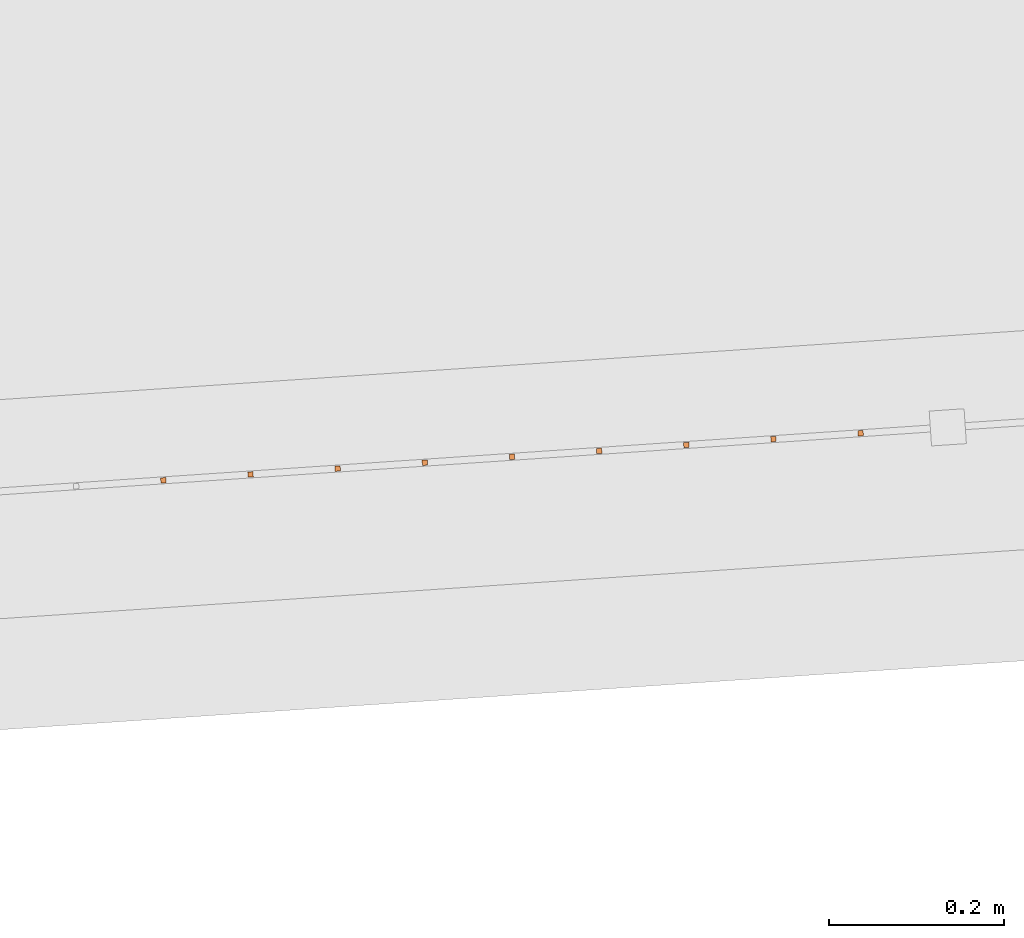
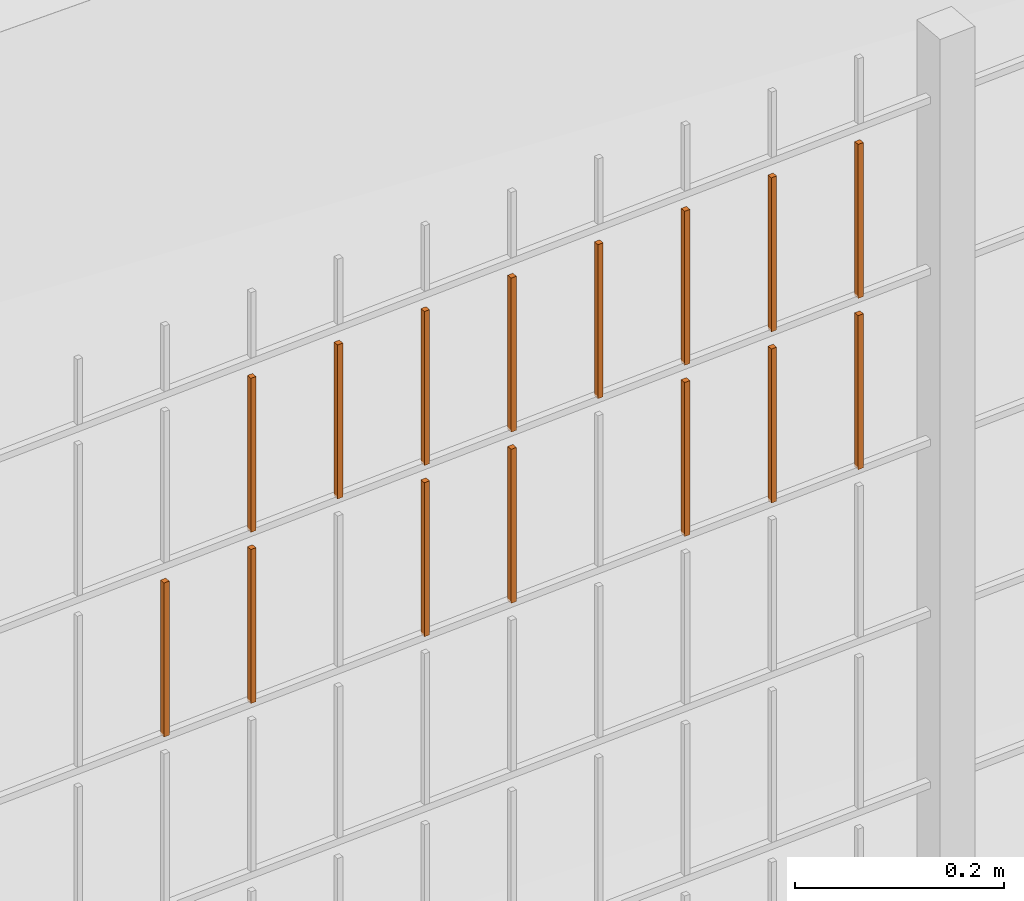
# One storey, part 351 of 1809: 15 proxies, 1 element without a shape of its own.
"""IFC2X3 building model written with IfcOpenShell, lengths in millimetres."""

from ifc_helpers import new_model, entity, si_unit, converted_unit, derived_unit, money_unit, direction, frame, origin_with_axes, place, context, subcontext, project, spatial, faceted_brep, source, transform, mapped, material, type_object, element, aggregate, save


model = new_model("IFC2X3")

# Units and contexts
model_context = context("Model", 3, precision=0.01, world=origin_with_axes(), true_north=direction((0.0, 1.0)))
body_context = subcontext(model_context, "Body", "Model", "MODEL_VIEW")
ifc_project = project(units=[si_unit("LENGTHUNIT", "METRE", prefix="MILLI"), si_unit("AREAUNIT", "SQUARE_METRE"), si_unit("VOLUMEUNIT", "CUBIC_METRE"), converted_unit("PLANEANGLEUNIT", "DEGREE", entity("IfcPlaneAngleMeasure", 0.0174532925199), si_unit("PLANEANGLEUNIT", "RADIAN"), dimensions=[0, 0, 0, 0, 0, 0, 0]), si_unit("SOLIDANGLEUNIT", "STERADIAN"), money_unit("EUR"), converted_unit("TIMEUNIT", "Year", entity("IfcTimeMeasure", 31556926.0), si_unit("TIMEUNIT", "SECOND"), dimensions=[0, 0, 1, 0, 0, 0, 0]), si_unit("MASSUNIT", "GRAM", prefix="KILO"), si_unit("THERMODYNAMICTEMPERATUREUNIT", "DEGREE_CELSIUS"), si_unit("LUMINOUSINTENSITYUNIT", "LUMEN"), si_unit("ENERGYUNIT", "JOULE", prefix="MEGA"), derived_unit("THERMALCONDUCTANCEUNIT", [(si_unit("POWERUNIT", "WATT"), 1), (si_unit("LENGTHUNIT", "METRE"), -1), (si_unit("THERMODYNAMICTEMPERATUREUNIT", "KELVIN"), -1)]), derived_unit("SPECIFICHEATCAPACITYUNIT", [(si_unit("ENERGYUNIT", "JOULE"), 1), (si_unit("MASSUNIT", "GRAM", prefix="KILO"), -1), (si_unit("THERMODYNAMICTEMPERATUREUNIT", "KELVIN"), -1)]), derived_unit("MASSDENSITYUNIT", [(si_unit("MASSUNIT", "GRAM", prefix="KILO"), 1), (si_unit("VOLUMEUNIT", "CUBIC_METRE"), -1)])], contexts=[model_context])

# Site, building, storey
site_placement = place(None, origin_with_axes())
site = spatial("IfcSite", under=ifc_project, at=site_placement, Name="Politse- ja Piirivalveameti ning Päästeameti ühishoone", CompositionType="ELEMENT")
building_placement = place(site_placement, origin_with_axes())
building = spatial("IfcBuilding", under=site, at=building_placement, Name="Politse- ja Piirivalveameti ning Päästeameti ühishoone", CompositionType="ELEMENT")
storey_placement = place(building_placement, origin_with_axes())
storey = spatial("IfcBuildingStorey", under=building, at=storey_placement, Name="Esimene korrus", CompositionType="ELEMENT", Elevation=0.0)

# Proxies
building_element_proxy_type_1 = type_object("IfcBuildingElementProxyType", Name="Railing Type", PredefinedType="NOTDEFINED")
proxy_1_placement = place(storey_placement, frame((89252.001212, -29183.4766571, 203.661247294), z_axis=(0.0, 0.0, 1.0), x_axis=(1.0, 0.0, 0.0)))
proxy_1 = element("IfcBuildingElementProxy", 1, at=proxy_1_placement, inside=storey, type_object=building_element_proxy_type_1, Name="PIIRDEAED")
ifc_material = material(Name="ET-03_Raud")
building_element_proxy_type_2 = type_object("IfcBuildingElementProxyType", Name="IfcBuildingElementProxy", PredefinedType="NOTDEFINED")
shared_shape_1 = source(origin_with_axes(), body_context, "Body", "Brep", [
    faceted_brep([(3.0, 3.0, -0.000752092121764), (-3.0, 3.0, -0.000752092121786), (-3.0, 3.0, 179.99926046), (3.0, 3.0, 179.99926046), (3.0, -3.0, 0.000752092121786), (-3.0, -3.0, 0.000752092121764), (-3.0, -3.0, 180.000764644), (3.0, -3.0, 180.000764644)], [[[0, 1, 2, 3]], [[0, 4, 5, 1]], [[1, 5, 6, 2]], [[3, 2, 6, 7]], [[4, 0, 3, 7]], [[5, 4, 7, 6]]]),
])
proxy_2_placement = place(proxy_1_placement, frame((-27863.1974887, -19179.8286001, 1820.23323817), z_axis=(0.0, 0.0, 1.0), x_axis=(1.0, 0.0, 0.0)))
proxy_2 = element("IfcBuildingElementProxy", 2, at=proxy_2_placement, type_object=building_element_proxy_type_2, material=ifc_material, Name="BALUSTER - 001", context=body_context, shape_type="MappedRepresentation", body=[
    mapped(shared_shape_1, transform((0.0, 0.0, 0.0), x_axis=(-0.0673926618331, 0.997726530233, 0.0), y_axis=(-0.997726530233, -0.0673926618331, 0.0), z_axis=(0.0, 0.0, 1.0))),
])
shared_shape_2 = source(origin_with_axes(), body_context, "Body", "Brep", [
    faceted_brep([(3.0, 3.0, -0.000752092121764), (-3.0, 3.0, -0.000752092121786), (-3.0, 3.0, 179.99926046), (3.0, 3.0, 179.99926046), (3.0, -3.0, 0.000752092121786), (-3.0, -3.0, 0.000752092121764), (-3.0, -3.0, 180.000764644), (3.0, -3.0, 180.000764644)], [[[0, 1, 2, 3]], [[0, 4, 5, 1]], [[1, 5, 6, 2]], [[3, 2, 6, 7]], [[4, 0, 3, 7]], [[5, 4, 7, 6]]]),
])
proxy_3_placement = place(proxy_1_placement, frame((-27863.1974887, -19179.8286001, 1620.23323817), z_axis=(0.0, 0.0, 1.0), x_axis=(1.0, 0.0, 0.0)))
proxy_3 = element("IfcBuildingElementProxy", 3, at=proxy_3_placement, type_object=building_element_proxy_type_2, material=ifc_material, Name="BALUSTER - 001", context=body_context, shape_type="MappedRepresentation", body=[
    mapped(shared_shape_2, transform((0.0, 0.0, 0.0), x_axis=(-0.0673926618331, 0.997726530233, 0.0), y_axis=(-0.997726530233, -0.0673926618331, 0.0), z_axis=(0.0, 0.0, 1.0))),
])
shared_shape_3 = source(origin_with_axes(), body_context, "Body", "Brep", [
    faceted_brep([(3.0, 3.0, -0.000752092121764), (-3.0, 3.0, -0.000752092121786), (-3.0, 3.0, 179.99926046), (3.0, 3.0, 179.99926046), (3.0, -3.0, 0.000752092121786), (-3.0, -3.0, 0.000752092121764), (-3.0, -3.0, 180.000764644), (3.0, -3.0, 180.000764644)], [[[0, 1, 2, 3]], [[0, 4, 5, 1]], [[1, 5, 6, 2]], [[3, 2, 6, 7]], [[4, 0, 3, 7]], [[5, 4, 7, 6]]]),
])
proxy_4_placement = place(proxy_1_placement, frame((-27763.4248357, -19173.0893339, 1820.25830791), z_axis=(0.0, 0.0, 1.0), x_axis=(1.0, 0.0, 0.0)))
proxy_4 = element("IfcBuildingElementProxy", 4, at=proxy_4_placement, type_object=building_element_proxy_type_2, material=ifc_material, Name="BALUSTER - 001", context=body_context, shape_type="MappedRepresentation", body=[
    mapped(shared_shape_3, transform((0.0, 0.0, 0.0), x_axis=(-0.0673926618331, 0.997726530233, 0.0), y_axis=(-0.997726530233, -0.0673926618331, 0.0), z_axis=(0.0, 0.0, 1.0))),
])
shared_shape_4 = source(origin_with_axes(), body_context, "Body", "Brep", [
    faceted_brep([(3.0, 3.0, -0.000752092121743), (-3.0, 3.0, -0.000752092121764), (-3.0, 3.0, 179.99926046), (3.0, 3.0, 179.99926046), (3.0, -3.0, 0.000752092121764), (-3.0, -3.0, 0.000752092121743), (-3.0, -3.0, 180.000764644), (3.0, -3.0, 180.000764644)], [[[0, 1, 2, 3]], [[0, 4, 5, 1]], [[1, 5, 6, 2]], [[3, 2, 6, 7]], [[4, 0, 3, 7]], [[5, 4, 7, 6]]]),
])
proxy_5_placement = place(proxy_1_placement, frame((-27962.9701417, -19186.5678662, 1820.20816844), z_axis=(0.0, 0.0, 1.0), x_axis=(1.0, 0.0, 0.0)))
proxy_5 = element("IfcBuildingElementProxy", 5, at=proxy_5_placement, type_object=building_element_proxy_type_2, material=ifc_material, Name="BALUSTER - 001", context=body_context, shape_type="MappedRepresentation", body=[
    mapped(shared_shape_4, transform((0.0, 0.0, 0.0), x_axis=(-0.0673926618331, 0.997726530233, 0.0), y_axis=(-0.997726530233, -0.0673926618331, 0.0), z_axis=(0.0, 0.0, 1.0))),
])
shared_shape_5 = source(origin_with_axes(), body_context, "Body", "Brep", [
    faceted_brep([(3.0, 3.0, -0.000752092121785), (-3.0, 3.0, -0.000752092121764), (-3.0, 3.0, 179.99926046), (3.0, 3.0, 179.99926046), (3.0, -3.0, 0.000752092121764), (-3.0, -3.0, 0.000752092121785), (-3.0, -3.0, 180.000764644), (3.0, -3.0, 180.000764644)], [[[0, 1, 2, 3]], [[0, 4, 5, 1]], [[1, 5, 6, 2]], [[3, 2, 6, 7]], [[4, 0, 3, 7]], [[5, 4, 7, 6]]]),
])
proxy_6_placement = place(proxy_1_placement, frame((-27464.1068766, -19152.8715353, 1820.33351712), z_axis=(0.0, 0.0, 1.0), x_axis=(1.0, 0.0, 0.0)))
proxy_6 = element("IfcBuildingElementProxy", 6, at=proxy_6_placement, type_object=building_element_proxy_type_2, material=ifc_material, Name="BALUSTER - 001", context=body_context, shape_type="MappedRepresentation", body=[
    mapped(shared_shape_5, transform((0.0, 0.0, 0.0), x_axis=(-0.0673926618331, 0.997726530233, 0.0), y_axis=(-0.997726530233, -0.0673926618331, 0.0), z_axis=(0.0, 0.0, 1.0))),
])
shared_shape_6 = source(origin_with_axes(), body_context, "Body", "Brep", [
    faceted_brep([(3.0, 3.0, -0.000752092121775), (-3.0, 3.0, -0.000752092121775), (-3.0, 3.0, 179.99926046), (3.0, 3.0, 179.99926046), (3.0, -3.0, 0.000752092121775), (-3.0, -3.0, 0.000752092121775), (-3.0, -3.0, 180.000764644), (3.0, -3.0, 180.000764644)], [[[0, 1, 2, 3]], [[0, 4, 5, 1]], [[1, 5, 6, 2]], [[3, 2, 6, 7]], [[4, 0, 3, 7]], [[5, 4, 7, 6]]]),
])
proxy_7_placement = place(proxy_1_placement, frame((-27563.8795296, -19159.6108015, 1820.30844739), z_axis=(0.0, 0.0, 1.0), x_axis=(1.0, 0.0, 0.0)))
proxy_7 = element("IfcBuildingElementProxy", 7, at=proxy_7_placement, type_object=building_element_proxy_type_2, material=ifc_material, Name="BALUSTER - 001", context=body_context, shape_type="MappedRepresentation", body=[
    mapped(shared_shape_6, transform((0.0, 0.0, 0.0), x_axis=(-0.0673926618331, 0.997726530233, 0.0), y_axis=(-0.997726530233, -0.0673926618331, 0.0), z_axis=(0.0, 0.0, 1.0))),
])
shared_shape_7 = source(origin_with_axes(), body_context, "Body", "Brep", [
    faceted_brep([(3.0, 3.0, -0.000752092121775), (-3.0, 3.0, -0.000752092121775), (-3.0, 3.0, 179.99926046), (3.0, 3.0, 179.99926046), (3.0, -3.0, 0.000752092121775), (-3.0, -3.0, 0.000752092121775), (-3.0, -3.0, 180.000764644), (3.0, -3.0, 180.000764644)], [[[0, 1, 2, 3]], [[0, 4, 5, 1]], [[1, 5, 6, 2]], [[3, 2, 6, 7]], [[4, 0, 3, 7]], [[5, 4, 7, 6]]]),
])
proxy_8_placement = place(proxy_1_placement, frame((-27563.8795296, -19159.6108015, 1620.30844739), z_axis=(0.0, 0.0, 1.0), x_axis=(1.0, 0.0, 0.0)))
proxy_8 = element("IfcBuildingElementProxy", 8, at=proxy_8_placement, type_object=building_element_proxy_type_2, material=ifc_material, Name="BALUSTER - 001", context=body_context, shape_type="MappedRepresentation", body=[
    mapped(shared_shape_7, transform((0.0, 0.0, 0.0), x_axis=(-0.0673926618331, 0.997726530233, 0.0), y_axis=(-0.997726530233, -0.0673926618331, 0.0), z_axis=(0.0, 0.0, 1.0))),
])
shared_shape_8 = source(origin_with_axes(), body_context, "Body", "Brep", [
    faceted_brep([(3.0, 3.0, -0.000752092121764), (-3.0, 3.0, -0.000752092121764), (-3.0, 3.0, 179.99926046), (3.0, 3.0, 179.99926046), (3.0, -3.0, 0.000752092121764), (-3.0, -3.0, 0.000752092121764), (-3.0, -3.0, 180.000764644), (3.0, -3.0, 180.000764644)], [[[0, 1, 2, 3]], [[0, 4, 5, 1]], [[1, 5, 6, 2]], [[3, 2, 6, 7]], [[4, 0, 3, 7]], [[5, 4, 7, 6]]]),
])
proxy_9_placement = place(proxy_1_placement, frame((-27364.3342236, -19146.1322691, 1820.35858686), z_axis=(0.0, 0.0, 1.0), x_axis=(1.0, 0.0, 0.0)))
proxy_9 = element("IfcBuildingElementProxy", 9, at=proxy_9_placement, type_object=building_element_proxy_type_2, material=ifc_material, Name="BALUSTER - 001", context=body_context, shape_type="MappedRepresentation", body=[
    mapped(shared_shape_8, transform((0.0, 0.0, 0.0), x_axis=(-0.0673926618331, 0.997726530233, 0.0), y_axis=(-0.997726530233, -0.0673926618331, 0.0), z_axis=(0.0, 0.0, 1.0))),
])
shared_shape_9 = source(origin_with_axes(), body_context, "Body", "Brep", [
    faceted_brep([(3.0, 3.0, -0.000752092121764), (-3.0, 3.0, -0.000752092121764), (-3.0, 3.0, 179.99926046), (3.0, 3.0, 179.99926046), (3.0, -3.0, 0.000752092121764), (-3.0, -3.0, 0.000752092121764), (-3.0, -3.0, 180.000764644), (3.0, -3.0, 180.000764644)], [[[0, 1, 2, 3]], [[0, 4, 5, 1]], [[1, 5, 6, 2]], [[3, 2, 6, 7]], [[4, 0, 3, 7]], [[5, 4, 7, 6]]]),
])
proxy_10_placement = place(proxy_1_placement, frame((-27364.3342236, -19146.1322691, 1620.35858686), z_axis=(0.0, 0.0, 1.0), x_axis=(1.0, 0.0, 0.0)))
proxy_10 = element("IfcBuildingElementProxy", 10, at=proxy_10_placement, type_object=building_element_proxy_type_2, material=ifc_material, Name="BALUSTER - 001", context=body_context, shape_type="MappedRepresentation", body=[
    mapped(shared_shape_9, transform((0.0, 0.0, 0.0), x_axis=(-0.0673926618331, 0.997726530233, 0.0), y_axis=(-0.997726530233, -0.0673926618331, 0.0), z_axis=(0.0, 0.0, 1.0))),
])
shared_shape_10 = source(origin_with_axes(), body_context, "Body", "Brep", [
    faceted_brep([(3.0, 3.0, -0.000752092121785), (-3.0, 3.0, -0.000752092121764), (-3.0, 3.0, 179.99926046), (3.0, 3.0, 179.99926046), (3.0, -3.0, 0.000752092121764), (-3.0, -3.0, 0.000752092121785), (-3.0, -3.0, 180.000764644), (3.0, -3.0, 180.000764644)], [[[0, 1, 2, 3]], [[0, 4, 5, 1]], [[1, 5, 6, 2]], [[3, 2, 6, 7]], [[4, 0, 3, 7]], [[5, 4, 7, 6]]]),
])
proxy_11_placement = place(proxy_1_placement, frame((-27663.6521826, -19166.3500677, 1820.28337765), z_axis=(0.0, 0.0, 1.0), x_axis=(1.0, 0.0, 0.0)))
proxy_11 = element("IfcBuildingElementProxy", 11, at=proxy_11_placement, type_object=building_element_proxy_type_2, material=ifc_material, Name="BALUSTER - 001", context=body_context, shape_type="MappedRepresentation", body=[
    mapped(shared_shape_10, transform((0.0, 0.0, 0.0), x_axis=(-0.0673926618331, 0.997726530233, 0.0), y_axis=(-0.997726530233, -0.0673926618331, 0.0), z_axis=(0.0, 0.0, 1.0))),
])
shared_shape_11 = source(origin_with_axes(), body_context, "Body", "Brep", [
    faceted_brep([(3.0, 3.0, -0.000752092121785), (-3.0, 3.0, -0.000752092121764), (-3.0, 3.0, 179.99926046), (3.0, 3.0, 179.99926046), (3.0, -3.0, 0.000752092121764), (-3.0, -3.0, 0.000752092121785), (-3.0, -3.0, 180.000764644), (3.0, -3.0, 180.000764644)], [[[0, 1, 2, 3]], [[0, 4, 5, 1]], [[1, 5, 6, 2]], [[3, 2, 6, 7]], [[4, 0, 3, 7]], [[5, 4, 7, 6]]]),
])
proxy_12_placement = place(proxy_1_placement, frame((-27464.1068766, -19152.8715353, 1620.33351712), z_axis=(0.0, 0.0, 1.0), x_axis=(1.0, 0.0, 0.0)))
proxy_12 = element("IfcBuildingElementProxy", 12, at=proxy_12_placement, type_object=building_element_proxy_type_2, material=ifc_material, Name="BALUSTER - 001", context=body_context, shape_type="MappedRepresentation", body=[
    mapped(shared_shape_11, transform((0.0, 0.0, 0.0), x_axis=(-0.0673926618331, 0.997726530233, 0.0), y_axis=(-0.997726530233, -0.0673926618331, 0.0), z_axis=(0.0, 0.0, 1.0))),
])
shared_shape_12 = source(origin_with_axes(), body_context, "Body", "Brep", [
    faceted_brep([(3.0, 3.0, -0.000752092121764), (-3.0, 3.0, -0.000752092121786), (-3.0, 3.0, 179.99926046), (3.0, 3.0, 179.99926046), (3.0, -3.0, 0.000752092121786), (-3.0, -3.0, 0.000752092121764), (-3.0, -3.0, 180.000764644), (3.0, -3.0, 180.000764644)], [[[0, 1, 2, 3]], [[0, 4, 5, 1]], [[1, 5, 6, 2]], [[3, 2, 6, 7]], [[4, 0, 3, 7]], [[5, 4, 7, 6]]]),
])
proxy_13_placement = place(proxy_1_placement, frame((-27763.4248357, -19173.0893339, 1620.25830791), z_axis=(0.0, 0.0, 1.0), x_axis=(1.0, 0.0, 0.0)))
proxy_13 = element("IfcBuildingElementProxy", 13, at=proxy_13_placement, type_object=building_element_proxy_type_2, material=ifc_material, Name="BALUSTER - 001", context=body_context, shape_type="MappedRepresentation", body=[
    mapped(shared_shape_12, transform((0.0, 0.0, 0.0), x_axis=(-0.0673926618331, 0.997726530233, 0.0), y_axis=(-0.997726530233, -0.0673926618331, 0.0), z_axis=(0.0, 0.0, 1.0))),
])
shared_shape_13 = source(origin_with_axes(), body_context, "Body", "Brep", [
    faceted_brep([(3.0, 3.0, -0.000752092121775), (-3.0, 3.0, -0.000752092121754), (-3.0, 3.0, 179.99926046), (3.0, 3.0, 179.99926046), (3.0, -3.0, 0.000752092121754), (-3.0, -3.0, 0.000752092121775), (-3.0, -3.0, 180.000764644), (3.0, -3.0, 180.000764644)], [[[0, 1, 2, 3]], [[0, 4, 5, 1]], [[1, 5, 6, 2]], [[3, 2, 6, 7]], [[4, 0, 3, 7]], [[5, 4, 7, 6]]]),
])
proxy_14_placement = place(proxy_1_placement, frame((-28062.7427947, -19193.3071324, 1620.1830987), z_axis=(0.0, 0.0, 1.0), x_axis=(1.0, 0.0, 0.0)))
proxy_14 = element("IfcBuildingElementProxy", 14, at=proxy_14_placement, type_object=building_element_proxy_type_2, material=ifc_material, Name="BALUSTER - 001", context=body_context, shape_type="MappedRepresentation", body=[
    mapped(shared_shape_13, transform((0.0, 0.0, 0.0), x_axis=(-0.0673926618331, 0.997726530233, 0.0), y_axis=(-0.997726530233, -0.0673926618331, 0.0), z_axis=(0.0, 0.0, 1.0))),
])
shared_shape_14 = source(origin_with_axes(), body_context, "Body", "Brep", [
    faceted_brep([(3.0, 3.0, -0.000752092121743), (-3.0, 3.0, -0.000752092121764), (-3.0, 3.0, 179.99926046), (3.0, 3.0, 179.99926046), (3.0, -3.0, 0.000752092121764), (-3.0, -3.0, 0.000752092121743), (-3.0, -3.0, 180.000764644), (3.0, -3.0, 180.000764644)], [[[0, 1, 2, 3]], [[0, 4, 5, 1]], [[1, 5, 6, 2]], [[3, 2, 6, 7]], [[4, 0, 3, 7]], [[5, 4, 7, 6]]]),
])
proxy_15_placement = place(proxy_1_placement, frame((-28162.5154478, -19200.0463986, 1620.15802896), z_axis=(0.0, 0.0, 1.0), x_axis=(1.0, 0.0, 0.0)))
proxy_15 = element("IfcBuildingElementProxy", 15, at=proxy_15_placement, type_object=building_element_proxy_type_2, material=ifc_material, Name="BALUSTER - 001", context=body_context, shape_type="MappedRepresentation", body=[
    mapped(shared_shape_14, transform((0.0, 0.0, 0.0), x_axis=(-0.0673926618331, 0.997726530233, 0.0), y_axis=(-0.997726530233, -0.0673926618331, 0.0), z_axis=(0.0, 0.0, 1.0))),
])
shared_shape_15 = source(origin_with_axes(), body_context, "Body", "Brep", [
    faceted_brep([(3.0, 3.0, -0.000752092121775), (-3.0, 3.0, -0.000752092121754), (-3.0, 3.0, 179.99926046), (3.0, 3.0, 179.99926046), (3.0, -3.0, 0.000752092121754), (-3.0, -3.0, 0.000752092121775), (-3.0, -3.0, 180.000764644), (3.0, -3.0, 180.000764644)], [[[0, 1, 2, 3]], [[0, 4, 5, 1]], [[1, 5, 6, 2]], [[3, 2, 6, 7]], [[4, 0, 3, 7]], [[5, 4, 7, 6]]]),
])
proxy_16_placement = place(proxy_1_placement, frame((-28062.7427947, -19193.3071324, 1820.1830987), z_axis=(0.0, 0.0, 1.0), x_axis=(1.0, 0.0, 0.0)))
proxy_16 = element("IfcBuildingElementProxy", 16, at=proxy_16_placement, type_object=building_element_proxy_type_2, material=ifc_material, Name="BALUSTER - 001", context=body_context, shape_type="MappedRepresentation", body=[
    mapped(shared_shape_15, transform((0.0, 0.0, 0.0), x_axis=(-0.0673926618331, 0.997726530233, 0.0), y_axis=(-0.997726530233, -0.0673926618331, 0.0), z_axis=(0.0, 0.0, 1.0))),
])
aggregate(proxy_1, [proxy_10, proxy_12, proxy_8, proxy_13, proxy_3, proxy_14, proxy_15, proxy_9, proxy_6, proxy_7, proxy_11, proxy_4, proxy_2, proxy_5, proxy_16])

save(model, "model.ifc")
